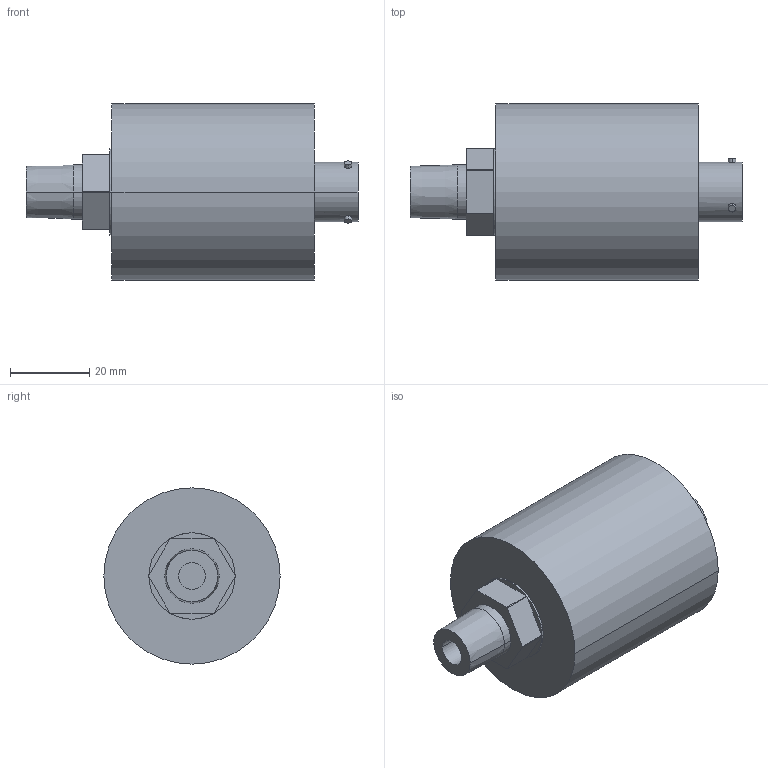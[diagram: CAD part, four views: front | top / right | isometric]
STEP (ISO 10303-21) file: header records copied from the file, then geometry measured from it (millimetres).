
FILE_DESCRIPTION(('STEP AP214'),'1');
FILE_NAME('burster_8267-4500_o5b80su5k6u7cw1ztdyrmof9.stp','2017-04-19T20:02:19',('TraceParts'),('TraceParts S.A.'),'Spatial InterOp 3D',' ',' ');
FILE_SCHEMA(('automotive_design'));
Length unit declared in the file: millimetre
Products named in the file (1): burster_8267-4500_o5b80su5k6u7cw1ztdyrmof9
Bounding box: 83.8 x 44.5 x 44.5 mm (x, y, z)
Volume: 83889 mm3; surface area: 12828.6 mm2
Topology: 1 solids, 1 shells, 60 faces, 133 edges, 88 vertices
Faces by surface type: cylinder 30, plane 28, cone 2
Entity records: 2313 total; most frequent: CARTESIAN_POINT 418, DIRECTION 315, ORIENTED_EDGE 266, EDGE_CURVE 133, AXIS2_PLACEMENT_3D 129, VERTEX_POINT 88, EDGE_LOOP 73, CIRCLE 68
